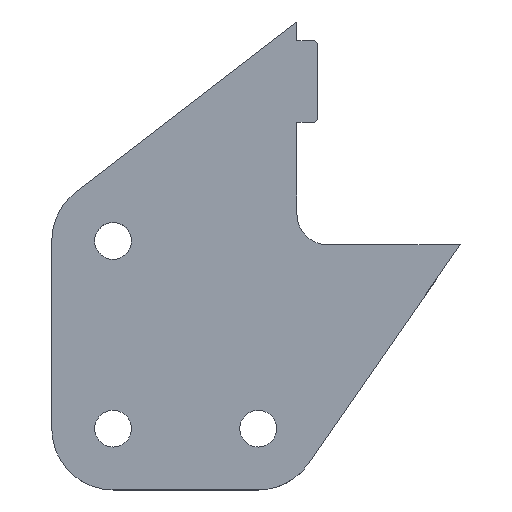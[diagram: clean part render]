
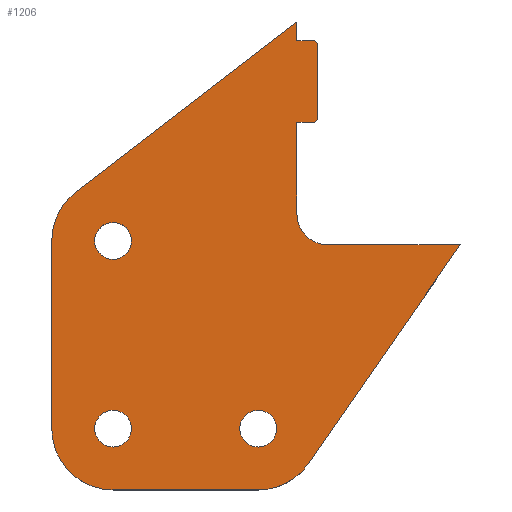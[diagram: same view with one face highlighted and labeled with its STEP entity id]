
A CAD part, top view. The second image highlights one B-rep face of the part: STEP entity #1206.
In plain terms, the highlighted planar face has unit normal (0, 0, 1).
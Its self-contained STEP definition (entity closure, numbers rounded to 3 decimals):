
#563=CIRCLE('',#1151,1.);
#565=CIRCLE('',#1155,1.);
#566=CIRCLE('',#1159,7.5);
#568=CIRCLE('',#1162,15.);
#569=CIRCLE('',#1163,15.);
#570=CIRCLE('',#1164,15.);
#571=CIRCLE('',#1165,4.5);
#572=CIRCLE('',#1166,4.5);
#573=CIRCLE('',#1167,4.5);
#617=ORIENTED_EDGE('',*,*,#810,.T.);
#618=ORIENTED_EDGE('',*,*,#829,.T.);
#619=ORIENTED_EDGE('',*,*,#830,.T.);
#620=ORIENTED_EDGE('',*,*,#831,.F.);
#621=ORIENTED_EDGE('',*,*,#832,.F.);
#622=ORIENTED_EDGE('',*,*,#833,.T.);
#623=ORIENTED_EDGE('',*,*,#834,.F.);
#624=ORIENTED_EDGE('',*,*,#835,.F.);
#625=ORIENTED_EDGE('',*,*,#836,.T.);
#626=ORIENTED_EDGE('',*,*,#837,.T.);
#627=ORIENTED_EDGE('',*,*,#826,.F.);
#628=ORIENTED_EDGE('',*,*,#825,.T.);
#629=ORIENTED_EDGE('',*,*,#822,.F.);
#630=ORIENTED_EDGE('',*,*,#819,.F.);
#631=ORIENTED_EDGE('',*,*,#816,.F.);
#632=ORIENTED_EDGE('',*,*,#813,.F.);
#633=ORIENTED_EDGE('',*,*,#838,.F.);
#634=ORIENTED_EDGE('',*,*,#839,.F.);
#635=ORIENTED_EDGE('',*,*,#840,.F.);
#700=VECTOR('',#926,1.);
#704=VECTOR('',#938,1.);
#708=VECTOR('',#950,1.);
#711=VECTOR('',#955,1.);
#713=VECTOR('',#965,1.);
#714=VECTOR('',#966,1.);
#715=VECTOR('',#969,1.);
#716=VECTOR('',#972,1.);
#717=VECTOR('',#975,1.);
#718=VECTOR('',#976,1.);
#736=LINE('',#1043,#700);
#740=LINE('',#1055,#704);
#744=LINE('',#1067,#708);
#747=LINE('',#1073,#711);
#749=LINE('',#1082,#713);
#750=LINE('',#1084,#714);
#751=LINE('',#1088,#715);
#752=LINE('',#1092,#716);
#753=LINE('',#1096,#717);
#754=LINE('',#1097,#718);
#770=VERTEX_POINT('',#1037);
#772=VERTEX_POINT('',#1041);
#774=VERTEX_POINT('',#1046);
#776=VERTEX_POINT('',#1052);
#778=VERTEX_POINT('',#1058);
#780=VERTEX_POINT('',#1064);
#782=VERTEX_POINT('',#1070);
#783=VERTEX_POINT('',#1075);
#785=VERTEX_POINT('',#1081);
#786=VERTEX_POINT('',#1083);
#787=VERTEX_POINT('',#1085);
#788=VERTEX_POINT('',#1087);
#789=VERTEX_POINT('',#1089);
#790=VERTEX_POINT('',#1091);
#791=VERTEX_POINT('',#1093);
#792=VERTEX_POINT('',#1095);
#793=VERTEX_POINT('',#1098);
#794=VERTEX_POINT('',#1100);
#795=VERTEX_POINT('',#1102);
#810=EDGE_CURVE('',#770,#772,#736,.T.);
#813=EDGE_CURVE('',#770,#774,#563,.T.);
#816=EDGE_CURVE('',#774,#776,#740,.T.);
#819=EDGE_CURVE('',#776,#778,#565,.T.);
#822=EDGE_CURVE('',#778,#780,#744,.T.);
#825=EDGE_CURVE('',#782,#780,#747,.T.);
#826=EDGE_CURVE('',#782,#783,#566,.T.);
#829=EDGE_CURVE('',#772,#785,#749,.T.);
#830=EDGE_CURVE('',#785,#786,#750,.T.);
#831=EDGE_CURVE('',#787,#786,#568,.T.);
#832=EDGE_CURVE('',#788,#787,#751,.T.);
#833=EDGE_CURVE('',#788,#789,#569,.T.);
#834=EDGE_CURVE('',#790,#789,#752,.T.);
#835=EDGE_CURVE('',#791,#790,#570,.T.);
#836=EDGE_CURVE('',#791,#792,#753,.T.);
#837=EDGE_CURVE('',#792,#783,#754,.T.);
#838=EDGE_CURVE('',#793,#793,#571,.T.);
#839=EDGE_CURVE('',#794,#794,#572,.T.);
#840=EDGE_CURVE('',#795,#795,#573,.T.);
#868=EDGE_LOOP('',(#617,#618,#619,#620,#621,#622,#623,#624,#625,#626,#627,
#628,#629,#630,#631,#632));
#869=EDGE_LOOP('',(#633));
#870=EDGE_LOOP('',(#634));
#871=EDGE_LOOP('',(#635));
#898=FACE_BOUND('',#868,.T.);
#899=FACE_BOUND('',#869,.T.);
#900=FACE_BOUND('',#870,.T.);
#901=FACE_BOUND('',#871,.T.);
#926=DIRECTION('',(-4.,0.,0.));
#932=DIRECTION('',(0.,0.,-1.));
#933=DIRECTION('',(0.,-1.,0.));
#938=DIRECTION('',(0.,-18.,0.));
#944=DIRECTION('',(0.,0.,-1.));
#945=DIRECTION('',(0.,-1.,0.));
#950=DIRECTION('',(-4.,0.,0.));
#955=DIRECTION('',(0.,22.5,0.));
#958=DIRECTION('',(0.,0.,1.));
#959=DIRECTION('',(0.,-7.5,0.));
#963=DIRECTION('',(0.,0.,1.));
#964=DIRECTION('',(0.,-1.,0.));
#965=DIRECTION('',(0.,4.544,0.));
#966=DIRECTION('',(-54.152,-41.703,0.));
#967=DIRECTION('',(0.,0.,-1.));
#968=DIRECTION('',(0.,-15.,0.));
#969=DIRECTION('',(0.,45.957,0.));
#970=DIRECTION('',(0.,0.,1.));
#971=DIRECTION('',(0.,15.,0.));
#972=DIRECTION('',(-35.521,0.,0.));
#973=DIRECTION('',(0.,0.,-1.));
#974=DIRECTION('',(0.,-15.,0.));
#975=DIRECTION('',(37.123,53.546,0.));
#976=DIRECTION('',(-32.471,0.,0.));
#977=DIRECTION('',(0.,0.,1.));
#978=DIRECTION('',(0.,-4.5,0.));
#979=DIRECTION('',(0.,0.,1.));
#980=DIRECTION('',(0.,-4.5,0.));
#981=DIRECTION('',(0.,0.,1.));
#982=DIRECTION('',(0.,-4.5,0.));
#1037=CARTESIAN_POINT('',(5813.504,13836.36,8.));
#1041=CARTESIAN_POINT('',(5809.504,13836.36,8.));
#1043=CARTESIAN_POINT('',(5813.504,13836.36,8.));
#1046=CARTESIAN_POINT('',(5814.504,13835.36,8.));
#1049=CARTESIAN_POINT('',(5813.504,13835.36,8.));
#1052=CARTESIAN_POINT('',(5814.504,13817.36,8.));
#1055=CARTESIAN_POINT('',(5814.504,13835.36,8.));
#1058=CARTESIAN_POINT('',(5813.504,13816.36,8.));
#1061=CARTESIAN_POINT('',(5813.504,13817.36,8.));
#1064=CARTESIAN_POINT('',(5809.504,13816.36,8.));
#1067=CARTESIAN_POINT('',(5813.504,13816.36,8.));
#1070=CARTESIAN_POINT('',(5809.504,13793.86,8.));
#1073=CARTESIAN_POINT('',(5809.504,13793.86,8.));
#1075=CARTESIAN_POINT('',(5817.004,13786.36,8.));
#1076=CARTESIAN_POINT('',(5817.004,13793.86,8.));
#1080=CARTESIAN_POINT('',(0.,0.,8.));
#1081=CARTESIAN_POINT('',(5809.504,13840.904,8.));
#1082=CARTESIAN_POINT('',(5809.504,13836.36,8.));
#1083=CARTESIAN_POINT('',(5755.351,13799.201,8.));
#1084=CARTESIAN_POINT('',(5809.504,13840.904,8.));
#1085=CARTESIAN_POINT('',(5749.504,13787.316,8.));
#1086=CARTESIAN_POINT('',(5764.504,13787.316,8.));
#1087=CARTESIAN_POINT('',(5749.504,13741.36,8.));
#1088=CARTESIAN_POINT('',(5749.504,13741.36,8.));
#1089=CARTESIAN_POINT('',(5764.504,13726.36,8.));
#1090=CARTESIAN_POINT('',(5764.504,13741.36,8.));
#1091=CARTESIAN_POINT('',(5800.024,13726.36,8.));
#1092=CARTESIAN_POINT('',(5800.024,13726.36,8.));
#1093=CARTESIAN_POINT('',(5812.352,13732.814,8.));
#1094=CARTESIAN_POINT('',(5800.024,13741.36,8.));
#1095=CARTESIAN_POINT('',(5849.474,13786.36,8.));
#1096=CARTESIAN_POINT('',(5812.352,13732.814,8.));
#1097=CARTESIAN_POINT('',(5849.474,13786.36,8.));
#1098=CARTESIAN_POINT('',(5764.504,13782.816,8.));
#1099=CARTESIAN_POINT('',(5764.504,13787.316,8.));
#1100=CARTESIAN_POINT('',(5764.504,13736.86,8.));
#1101=CARTESIAN_POINT('',(5764.504,13741.36,8.));
#1102=CARTESIAN_POINT('',(5800.024,13736.86,8.));
#1103=CARTESIAN_POINT('',(5800.024,13741.36,8.));
#1151=AXIS2_PLACEMENT_3D('',#1049,#932,#933);
#1155=AXIS2_PLACEMENT_3D('',#1061,#944,#945);
#1159=AXIS2_PLACEMENT_3D('',#1076,#958,#959);
#1161=AXIS2_PLACEMENT_3D('',#1080,#963,#964);
#1162=AXIS2_PLACEMENT_3D('',#1086,#967,#968);
#1163=AXIS2_PLACEMENT_3D('',#1090,#970,#971);
#1164=AXIS2_PLACEMENT_3D('',#1094,#973,#974);
#1165=AXIS2_PLACEMENT_3D('',#1099,#977,#978);
#1166=AXIS2_PLACEMENT_3D('',#1101,#979,#980);
#1167=AXIS2_PLACEMENT_3D('',#1103,#981,#982);
#1191=PLANE('',#1161);
#1206=ADVANCED_FACE('',(#898,#899,#900,#901),#1191,.T.);
